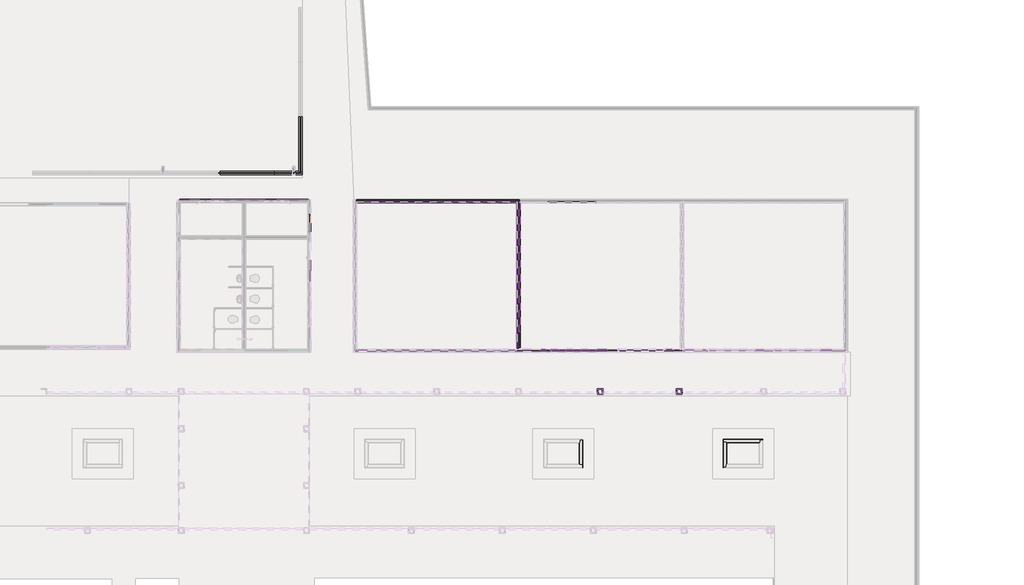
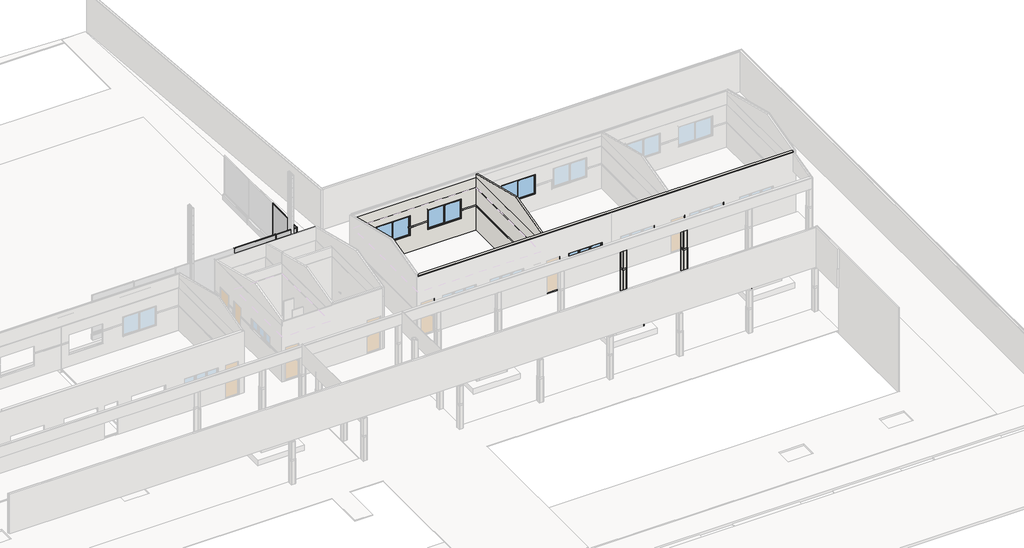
# One storey, part 17 of 28: 53 walls, 4 windows, 3 plates, 2 doors.
"""IFC4 building model written with IfcOpenShell, lengths in millimetres."""

from ifc_helpers import new_model, si_unit, frame, origin, place, context, project, spatial, polyline, outline, extrude, faceted_brep, transform, mapped, element, save
from components import door_29cd268e, pm71_l82cm_d3679378, plate_c8864c2c, plate_80ebe286, window_2x1_20x1x10_9e9748dd, window_2x60x220_bcaba8dd

model = new_model("IFC4")

# Units and contexts
model_context = context("Model", 3, world=origin())
ifc_project = project(units=[si_unit("LENGTHUNIT", "METRE", prefix="MILLI")], contexts=[model_context])

# Site, building, storey
site = spatial("IfcSite", under=ifc_project)
building = spatial("IfcBuilding", under=site)
storey = spatial("IfcBuildingStorey", under=building, Name="Térreo", Elevation=0.0)

# Doors
placement = place(None, origin())
door_shape = door_29cd268e(model_context)
element("IfcDoor", 1, ObjectType="FDE_RP02_Reforço : FDE_RP02_Reforço", at=placement, inside=storey, context=model_context, shape_type="MappedRepresentation", body=[
    mapped(door_shape, transform((-27945.0, 27320.0, 1265.0), x_axis=(0.0, -1.0, 0.0), y_axis=(1.0, 0.0, 0.0), z_axis=(0.0, 0.0, 1.0))),
])
pm71_l82cm_shape = pm71_l82cm_d3679378(model_context)
element("IfcDoor", 2, ObjectType="FDE_PM70_PM71_PM72_PortadeMadeiraSarrafeada_BatenteMetálico : PM71_L82cm", at=placement, inside=storey, context=model_context, shape_type="MappedRepresentation", body=[
    mapped(pm71_l82cm_shape, transform((-27975.0, 26965.0, 215.0), x_axis=(0.0, -1.0, 0.0), y_axis=(1.0, 0.0, 0.0), z_axis=(0.0, 0.0, 1.0))),
])

# Plates
plate_shape = plate_c8864c2c(model_context)
element("IfcPlate", 3, ObjectType="FDE_FQ01_FechamentoParaQuadradeEsportes : FQ01_LateraisSapata", at=placement, inside=storey, context=model_context, shape_type="MappedRepresentation", body=[
    mapped(plate_shape, transform((-30914.9999997, 29253.7010511, -350.0), x_axis=(1.0, 0.0, 0.0), y_axis=(0.0, 1.0, 0.0), z_axis=(0.0, 0.0, 1.0))),
])
element("IfcPlate", 4, ObjectType="FDE_FQ01_FechamentoParaQuadradeEsportes : FQ01_LateraisSapata", at=placement, inside=storey, context=model_context, shape_type="MappedRepresentation", body=[
    mapped(plate_shape, transform((-28385.0, 30503.7010512, -350.0), x_axis=(0.0, 1.0, 0.0), y_axis=(-1.0, 0.0, 0.0), z_axis=(0.0, 0.0, 1.0))),
])
plate_2_shape = plate_80ebe286(model_context)
element("IfcPlate", 5, ObjectType="FDE_FQ01_FechamentoParaQuadradeEsportes : FQ01_LateraisSapata", at=placement, inside=storey, context=model_context, shape_type="MappedRepresentation", body=[
    mapped(plate_2_shape, transform((-29024.9999998, 29253.7010511, -350.0), x_axis=(1.0, 0.0, 0.0), y_axis=(0.0, 1.0, 0.0), z_axis=(0.0, 0.0, 1.0))),
])

# Walls
element("IfcWall", 6, ObjectType="FDE_S712_AlvenariadeTijoloCerâmico/Baiano_Alvenaria_9cm - Existente", at=placement, inside=storey, context=model_context, shape_type="Brep", body=[
    faceted_brep([(-25830.0, 27930.0, 0.0), (-18425.0, 27930.0, 0.0), (-18425.0, 27930.0, 3500.0), (-25830.0, 27930.0, 3500.0), (-21365.0, 27930.0, 1235.0), (-21365.0, 27930.0, 1824.9435125), (-21365.0, 27930.0, 2505.0), (-19295.0, 27930.0, 2505.0), (-19295.0, 27930.0, 1824.9435125), (-19295.0, 27930.0, 1235.0), (-24465.0, 27930.0, 1235.0), (-24465.0, 27930.0, 1824.9435125), (-24465.0, 27930.0, 2505.0), (-22395.0, 27930.0, 2505.0), (-22395.0, 27930.0, 1824.9435125), (-22395.0, 27930.0, 1235.0), (-25830.0, 28020.0, 0.0), (-25830.0, 28020.0, 3500.0), (-18425.0, 28020.0, 3500.0), (-18425.0, 28020.0, 0.0), (-21365.0, 28020.0, 1235.0), (-19295.0, 28020.0, 1235.0), (-19295.0, 28020.0, 2505.0), (-21365.0, 28020.0, 2505.0), (-24465.0, 28020.0, 1235.0), (-22395.0, 28020.0, 1235.0), (-22395.0, 28020.0, 2505.0), (-24465.0, 28020.0, 2505.0)], [[[0, 1, 2, 3], [4, 5, 6, 7, 8, 9], [10, 11, 12, 13, 14, 15]], [[16, 17, 18, 19], [20, 21, 22, 23], [24, 25, 26, 27]], [[1, 0, 16, 19]], [[3, 2, 18, 17]], [[0, 3, 17, 16]], [[2, 1, 19, 18]], [[6, 5, 4, 20, 23]], [[7, 6, 23, 22]], [[9, 8, 7, 22, 21]], [[4, 9, 21, 20]], [[12, 11, 10, 24, 27]], [[13, 12, 27, 26]], [[15, 14, 13, 26, 25]], [[10, 15, 25, 24]]]),
])
element("IfcWall", 7, ObjectType="FDE_S712_AlvenariadeTijoloCerâmico/Baiano_Alvenaria_9cm - Existente", at=placement, inside=storey, context=model_context, shape_type="Brep", body=[
    faceted_brep([(-18425.0, 28020.0, 0.0), (-18425.0, 27930.0, 0.0), (-18425.0, 21150.0, 0.0), (-18425.0, 21060.0, 0.0), (-18425.0, 21060.0, 3500.0), (-18425.0, 21150.0, 3500.0), (-18425.0, 27930.0, 3500.0), (-18425.0, 28020.0, 3500.0), (-18335.0, 28020.0, 0.0), (-18335.0, 28020.0, 3500.0), (-18335.0, 27930.0, 3500.0), (-18335.0, 21150.0, 3500.0), (-18335.0, 21060.0, 3500.0), (-18335.0, 21060.0, 0.0), (-18335.0, 21150.0, 0.0), (-18335.0, 27930.0, 0.0)], [[[0, 1, 2, 3, 4, 5, 6, 7]], [[8, 9, 10, 11, 12, 13, 14, 15]], [[3, 2, 1, 0, 8, 15, 14, 13]], [[7, 6, 5, 4, 12, 11, 10, 9]], [[4, 3, 13, 12]], [[0, 7, 9, 8]]]),
])
element("IfcWall", 8, ObjectType="FDE_S712_AlvenariadeTijoloCerâmico/Baiano_Alvenaria_9cm - Existente", at=placement, inside=storey, context=model_context, shape_type="Brep", body=[
    faceted_brep([(-10920.0, 21150.0, 0.0), (-18335.0, 21150.0, 0.0), (-18335.0, 21150.0, 3500.0), (-10920.0, 21150.0, 3500.0), (-18196.0, 21150.0, 2332.0), (-18196.0, 21150.0, 220.0), (-17362.0, 21150.0, 220.0), (-17362.0, 21150.0, 2332.0), (-11719.0, 21150.0, 1665.0), (-11719.0, 21150.0, 2335.0), (-13789.0, 21150.0, 2335.0), (-13789.0, 21150.0, 1665.0), (-14827.0, 21150.0, 1665.0), (-14827.0, 21150.0, 2335.0), (-16897.0, 21150.0, 2335.0), (-16897.0, 21150.0, 1665.0), (-18335.0, 21060.0, 0.0), (-10920.0, 21060.0, 0.0), (-10920.0, 21060.0, 3500.0), (-18335.0, 21060.0, 3500.0), (-18196.0, 21060.0, 220.0), (-18196.0, 21060.0, 1731.0528047), (-18196.0, 21060.0, 1824.9435125), (-18196.0, 21060.0, 2332.0), (-17362.0, 21060.0, 2332.0), (-17362.0, 21060.0, 1824.9435125), (-17362.0, 21060.0, 1731.0528047), (-17362.0, 21060.0, 220.0), (-11719.0, 21060.0, 2335.0), (-11719.0, 21060.0, 1824.9435125), (-11719.0, 21060.0, 1731.0528047), (-11719.0, 21060.0, 1665.0), (-13789.0, 21060.0, 1665.0), (-13789.0, 21060.0, 1731.0528047), (-13789.0, 21060.0, 1824.9435125), (-13789.0, 21060.0, 2335.0), (-14827.0, 21060.0, 2335.0), (-14827.0, 21060.0, 1824.9435125), (-14827.0, 21060.0, 1731.0528047), (-14827.0, 21060.0, 1665.0), (-16897.0, 21060.0, 1665.0), (-16897.0, 21060.0, 1731.0528047), (-16897.0, 21060.0, 1824.9435125), (-16897.0, 21060.0, 2335.0)], [[[0, 1, 2, 3], [4, 5, 6, 7], [8, 9, 10, 11], [12, 13, 14, 15]], [[16, 17, 18, 19], [20, 21, 22, 23, 24, 25, 26, 27], [28, 29, 30, 31, 32, 33, 34, 35], [36, 37, 38, 39, 40, 41, 42, 43]], [[1, 0, 17, 16]], [[3, 2, 19, 18]], [[2, 1, 16, 19]], [[20, 5, 4, 23, 22, 21]], [[23, 4, 7, 24]], [[24, 7, 6, 27, 26, 25]], [[5, 20, 27, 6]], [[8, 31, 30, 29, 28, 9]], [[9, 28, 35, 10]], [[10, 35, 34, 33, 32, 11]], [[31, 8, 11, 32]], [[12, 39, 38, 37, 36, 13]], [[13, 36, 43, 14]], [[14, 43, 42, 41, 40, 15]], [[39, 12, 15, 40]], [[3, 18, 17, 0]]]),
])
element("IfcWall", 9, ObjectType="FDE_S712_AlvenariadeTijoloCerâmico/Baiano_Alvenaria_9cm - Existente", at=placement, inside=storey, context=model_context, shape_type="Brep", body=[
    faceted_brep([(-3420.0, 21150.0, 4093.692274), (-3420.0, 21150.0, 1730.1789081), (-3420.0, 21150.0, 1600.0), (-9920.0, 21150.0, 1600.0), (-9920.0, 21150.0, 1730.1789081), (-9920.0, 21150.0, 2312.0), (-10754.0, 21150.0, 2312.0), (-10754.0, 21150.0, 1730.1789081), (-10754.0, 21150.0, 1600.0), (-17362.0, 21150.0, 1600.0), (-17362.0, 21150.0, 1730.1789081), (-17362.0, 21150.0, 2332.0), (-18196.0, 21150.0, 2332.0), (-18196.0, 21150.0, 1730.1789081), (-18196.0, 21150.0, 1600.0), (-24896.0, 21150.0, 1600.0), (-24896.0, 21150.0, 2312.0), (-25730.0, 21150.0, 2312.0), (-25730.0, 21150.0, 1600.0), (-25830.0, 21150.0, 1600.0), (-25830.0, 21150.0, 4093.692274), (-22361.0, 21150.0, 1665.0), (-22361.0, 21150.0, 2335.0), (-24431.0, 21150.0, 2335.0), (-24431.0, 21150.0, 1665.0), (-19521.0, 21150.0, 1665.0), (-19521.0, 21150.0, 2335.0), (-21591.0, 21150.0, 2335.0), (-21591.0, 21150.0, 1665.0), (-14827.0, 21150.0, 1665.0), (-14827.0, 21150.0, 1730.1789081), (-14827.0, 21150.0, 2335.0), (-16897.0, 21150.0, 2335.0), (-16897.0, 21150.0, 1730.1789081), (-16897.0, 21150.0, 1665.0), (-11719.0, 21150.0, 1665.0), (-11719.0, 21150.0, 1730.1789081), (-11719.0, 21150.0, 2335.0), (-13789.0, 21150.0, 2335.0), (-13789.0, 21150.0, 1730.1789081), (-13789.0, 21150.0, 1665.0), (-7585.0, 21150.0, 1665.0), (-7585.0, 21150.0, 1730.1789081), (-7585.0, 21150.0, 2335.0), (-9655.0, 21150.0, 2335.0), (-9655.0, 21150.0, 1730.1789081), (-9655.0, 21150.0, 1665.0), (-4585.0, 21150.0, 1665.0), (-4585.0, 21150.0, 1730.1789081), (-4585.0, 21150.0, 2335.0), (-6655.0, 21150.0, 2335.0), (-6655.0, 21150.0, 1730.1789081), (-6655.0, 21150.0, 1665.0), (-3420.0, 21060.0, 1600.0), (-3420.0, 21060.0, 4071.192274), (-25830.0, 21060.0, 4071.192274), (-25830.0, 21060.0, 1600.0), (-25730.0, 21060.0, 1600.0), (-25730.0, 21060.0, 2312.0), (-24896.0, 21060.0, 2312.0), (-24896.0, 21060.0, 1600.0), (-18196.0, 21060.0, 1600.0), (-18196.0, 21060.0, 2332.0), (-17362.0, 21060.0, 2332.0), (-17362.0, 21060.0, 1600.0), (-10754.0, 21060.0, 1600.0), (-10754.0, 21060.0, 2312.0), (-9920.0, 21060.0, 2312.0), (-9920.0, 21060.0, 1600.0), (-22361.0, 21060.0, 2335.0), (-22361.0, 21060.0, 1665.0), (-24431.0, 21060.0, 1665.0), (-24431.0, 21060.0, 2335.0), (-19521.0, 21060.0, 2335.0), (-19521.0, 21060.0, 1665.0), (-21591.0, 21060.0, 1665.0), (-21591.0, 21060.0, 2335.0), (-14827.0, 21060.0, 2335.0), (-14827.0, 21060.0, 1665.0), (-16897.0, 21060.0, 1665.0), (-16897.0, 21060.0, 2335.0), (-11719.0, 21060.0, 2335.0), (-11719.0, 21060.0, 1665.0), (-13789.0, 21060.0, 1665.0), (-13789.0, 21060.0, 2335.0), (-7585.0, 21060.0, 2335.0), (-7585.0, 21060.0, 1665.0), (-9655.0, 21060.0, 1665.0), (-9655.0, 21060.0, 2335.0), (-4585.0, 21060.0, 2335.0), (-4585.0, 21060.0, 1665.0), (-6655.0, 21060.0, 1665.0), (-6655.0, 21060.0, 2335.0)], [[[0, 1, 2, 3, 4, 5, 6, 7, 8, 9, 10, 11, 12, 13, 14, 15, 16, 17, 18, 19, 20], [21, 22, 23, 24], [25, 26, 27, 28], [29, 30, 31, 32, 33, 34], [35, 36, 37, 38, 39, 40], [41, 42, 43, 44, 45, 46], [47, 48, 49, 50, 51, 52]], [[53, 54, 55, 56, 57, 58, 59, 60, 61, 62, 63, 64, 65, 66, 67, 68], [69, 70, 71, 72], [73, 74, 75, 76], [77, 78, 79, 80], [81, 82, 83, 84], [85, 86, 87, 88], [89, 90, 91, 92]], [[2, 53, 68, 3]], [[19, 18, 57, 56]], [[60, 15, 14, 61]], [[64, 9, 8, 65]], [[2, 1, 0, 54, 53]], [[17, 58, 57, 18]], [[58, 17, 16, 59]], [[59, 16, 15, 60]], [[12, 62, 61, 14, 13]], [[62, 12, 11, 63]], [[63, 11, 10, 9, 64]], [[6, 66, 65, 8, 7]], [[66, 6, 5, 67]], [[67, 5, 4, 3, 68]], [[0, 20, 55, 54]], [[69, 22, 21, 70]], [[22, 69, 72, 23]], [[23, 72, 71, 24]], [[25, 74, 73, 26]], [[26, 73, 76, 27]], [[27, 76, 75, 28]], [[77, 31, 30, 29, 78]], [[31, 77, 80, 32]], [[32, 80, 79, 34, 33]], [[81, 37, 36, 35, 82]], [[37, 81, 84, 38]], [[38, 84, 83, 40, 39]], [[85, 43, 42, 41, 86]], [[43, 85, 88, 44]], [[44, 88, 87, 46, 45]], [[89, 49, 48, 47, 90]], [[49, 89, 92, 50]], [[50, 92, 91, 52, 51]], [[90, 47, 52, 91]], [[74, 25, 28, 75]], [[70, 21, 24, 71]], [[82, 35, 40, 83]], [[78, 29, 34, 79]], [[86, 41, 46, 87]], [[19, 56, 55, 20]]]),
])
element("IfcWall", 10, ObjectType="FDE_S712_AlvenariadeTijoloCerâmico/Baiano_Alvenaria_9cm - Existente", at=placement, inside=storey, context=model_context, shape_type="SweptSolid", body=[
    extrude(outline(polyline([(27930.0, 0.0), (21180.0, 0.0), (21180.0, 4101.192274), (23811.6315073, 4759.1001508), (27930.0, 3729.5080277), (27930.0, 0.0)])), frame((-18425.0, 0.0, 0.0), z_axis=(1.0, 0.0, 0.0), x_axis=(0.0, 1.0, 0.0)), (0.0, 0.0, 1.0), 90.0),
])
element("IfcWall", 11, ObjectType="Revestimento Cerâmico 10x10cm", at=placement, inside=storey, context=model_context, shape_type="Brep", body=[
    faceted_brep([(-18305.0, 21180.0, 0.0), (-18305.0, 27900.0, 0.0), (-18305.0, 27930.0, 0.0), (-18305.0, 27930.0, 1730.1789081), (-18305.0, 27930.0, 1731.0528047), (-18305.0, 21180.0, 1731.0528047), (-18335.0, 21180.0, 0.0), (-18335.0, 21180.0, 1730.1789081), (-18335.0, 21180.0, 1731.0528047), (-18335.0, 27930.0, 1731.0528047), (-18335.0, 27930.0, 0.0)], [[[0, 1, 2, 3, 4, 5]], [[6, 7, 8, 9, 10]], [[2, 1, 0, 6, 10]], [[5, 4, 9, 8]], [[0, 5, 8, 7, 6]], [[4, 3, 2, 10, 9]]]),
])
element("IfcWall", 12, ObjectType="Revestimento Cerâmico 10x10cm", at=placement, inside=storey, context=model_context, shape_type="Brep", body=[
    faceted_brep([(-18460.0, 27930.0, 0.0), (-18460.0, 27900.0, 0.0), (-18460.0, 21180.0, 0.0), (-18460.0, 21150.0, 0.0), (-18460.0, 21150.0, 1730.538599), (-18460.0, 21180.0, 1730.538599), (-18460.0, 27900.0, 1730.538599), (-18460.0, 27930.0, 1730.538599), (-18430.0, 27930.0, 0.0), (-18430.0, 27930.0, 1730.538599), (-18430.0, 21150.0, 1730.538599), (-18430.0, 21150.0, 0.0)], [[[0, 1, 2, 3, 4, 5, 6, 7]], [[8, 9, 10, 11]], [[3, 2, 1, 0, 8, 11]], [[7, 6, 5, 4, 10, 9]], [[0, 7, 9, 8]], [[3, 11, 10, 4]]]),
])
element("IfcWall", 13, ObjectType="Revestimento Cerâmico 10x10cm", at=placement, inside=storey, context=model_context, shape_type="SweptSolid", body=[
    extrude(outline(polyline([(0.0, -25800.0), (0.0, -18460.0), (1730.538599, -18460.0), (1730.538599, -19295.0), (1235.0, -19295.0), (1235.0, -21365.0), (1730.538599, -21365.0), (1730.538599, -22395.0), (1235.0, -22395.0), (1235.0, -24465.0), (1730.538599, -24465.0), (1730.538599, -25800.0), (0.0, -25800.0)])), frame((0.0, 27900.0, 0.0), z_axis=(0.0, 1.0, 0.0), x_axis=(0.0, 0.0, 1.0)), (0.0, 0.0, 1.0), 30.0),
])
element("IfcWall", 14, ObjectType="Faixa - Revestimento Cerâmico Verde Folha 10x10cm", at=placement, inside=storey, context=model_context, shape_type="Brep", body=[
    faceted_brep([(-18460.0, 27930.0, 1731.0528047), (-18460.0, 27900.0, 1731.0528047), (-18460.0, 21180.0, 1731.0528047), (-18460.0, 21180.0, 1824.9435125), (-18460.0, 27900.0, 1824.9435125), (-18460.0, 27930.0, 1824.9435125), (-18430.0, 27930.0, 1731.0528047), (-18430.0, 27930.0, 1824.9435125), (-18430.0, 21180.0, 1824.9435125), (-18430.0, 21180.0, 1731.0528047)], [[[0, 1, 2, 3, 4, 5]], [[6, 7, 8, 9]], [[2, 1, 0, 6, 9]], [[5, 4, 3, 8, 7]], [[0, 5, 7, 6]], [[3, 2, 9, 8]]]),
])
element("IfcWall", 15, ObjectType="Pardes Internas_Pintura Acrílica Branco Neve 2", at=placement, inside=storey, context=model_context, shape_type="Brep", body=[
    faceted_brep([(-18456.0, 27930.0, 1824.9435125), (-18456.0, 27899.0, 1824.9435125), (-18456.0, 21181.0, 1824.9435125), (-18456.0, 21181.0, 2900.0), (-18456.0, 27899.0, 2900.0), (-18456.0, 27930.0, 2900.0), (-18425.0, 27930.0, 1824.9435125), (-18425.0, 27930.0, 2900.0), (-18425.0, 21181.0, 2900.0), (-18425.0, 21181.0, 1824.9435125)], [[[0, 1, 2, 3, 4, 5]], [[6, 7, 8, 9]], [[2, 1, 0, 6, 9]], [[5, 4, 3, 8, 7]], [[3, 2, 9, 8]], [[0, 5, 7, 6]]]),
])
element("IfcWall", 16, ObjectType="Faixa - Revestimento Cerâmico Verde Folha 10x10cm", at=placement, inside=storey, context=model_context, shape_type="SweptSolid", body=[
    extrude(outline(polyline([(-25800.0, 27900.0), (-25800.0, 27930.0), (-24565.0, 27930.0), (-24565.0, 27900.0), (-25800.0, 27900.0)])), frame((0.0, 0.0, 1731.0528047), z_axis=(0.0, 0.0, 1.0), x_axis=(1.0, 0.0, 0.0)), (0.0, 0.0, 1.0), 93.8907079),
    extrude(outline(polyline([(-18460.0, 27930.0), (-18460.0, 27900.0), (-19295.0, 27900.0), (-19295.0, 27930.0), (-18460.0, 27930.0)])), frame((0.0, 0.0, 1731.0528047), z_axis=(0.0, 0.0, 1.0), x_axis=(1.0, 0.0, 0.0)), (0.0, 0.0, 1.0), 93.8907079),
    extrude(outline(polyline([(-22495.0, 27900.0), (-22495.0, 27930.0), (-21365.0, 27930.0), (-21365.0, 27900.0), (-22495.0, 27900.0)])), frame((0.0, 0.0, 1731.0528047), z_axis=(0.0, 0.0, 1.0), x_axis=(1.0, 0.0, 0.0)), (0.0, 0.0, 1.0), 93.8907079),
])
element("IfcWall", 17, ObjectType="Faixa - Revestimento Cerâmico Verde Folha 10x10cm", at=placement, inside=storey, context=model_context, shape_type="SweptSolid", body=[
    extrude(outline(polyline([(-18305.0, 27900.0), (-18305.0, 27930.0), (-16955.0, 27930.0), (-16955.0, 27900.0), (-18305.0, 27900.0)])), frame((0.0, 0.0, 1731.0528047), z_axis=(0.0, 0.0, 1.0), x_axis=(1.0, 0.0, 0.0)), (0.0, 0.0, 1.0), 93.8907079),
])
element("IfcWall", 18, ObjectType="Pardes Internas_Pintura Acrílica Branco Neve 2", at=placement, inside=storey, context=model_context, shape_type="SweptSolid", body=[
    extrude(outline(polyline([(2900.0, -18456.0), (2900.0, -25799.0), (1824.9435125, -25799.0), (1824.9435125, -24465.0), (2505.0, -24465.0), (2505.0, -22395.0), (1824.9435125, -22395.0), (1824.9435125, -21365.0), (2505.0, -21365.0), (2505.0, -19295.0), (1824.9435125, -19295.0), (1824.9435125, -18456.0), (2900.0, -18456.0)])), frame((0.0, 27899.0, 0.0), z_axis=(0.0, 1.0, 0.0), x_axis=(0.0, 0.0, 1.0)), (0.0, 0.0, 1.0), 31.0),
])
element("IfcWall", 19, ObjectType="Revestimento Cerâmico 10x10cm", at=placement, inside=storey, context=model_context, shape_type="Brep", body=[
    faceted_brep([(-28020.0, 28050.0, 0.0), (-33930.0, 28050.0, 0.0), (-33930.0, 28050.0, 1731.0528047), (-33010.0, 28050.0, 1731.0528047), (-33010.0, 28050.0, 1665.0), (-31940.0, 28050.0, 1665.0), (-31940.0, 28050.0, 1731.0528047), (-30010.0, 28050.0, 1731.0528047), (-30010.0, 28050.0, 1665.0), (-28940.0, 28050.0, 1665.0), (-28940.0, 28050.0, 1731.0528047), (-28020.0, 28050.0, 1731.0528047), (-33930.0, 28020.0, 0.0), (-28020.0, 28020.0, 0.0), (-28020.0, 28020.0, 1731.0528047), (-28940.0, 28020.0, 1731.0528047), (-28940.0, 28020.0, 1665.0), (-30010.0, 28020.0, 1665.0), (-30010.0, 28020.0, 1731.0528047), (-31940.0, 28020.0, 1731.0528047), (-31940.0, 28020.0, 1665.0), (-33010.0, 28020.0, 1665.0), (-33010.0, 28020.0, 1731.0528047), (-33930.0, 28020.0, 1731.0528047), (-33930.0, 28041.0, 1731.0528047), (-33010.0, 28041.0, 1731.0528047), (-31940.0, 28041.0, 1731.0528047), (-30010.0, 28041.0, 1731.0528047), (-28020.0, 28041.0, 1731.0528047), (-28940.0, 28041.0, 1731.0528047)], [[[0, 1, 2, 3, 4, 5, 6, 7, 8, 9, 10, 11]], [[12, 13, 14, 15, 16, 17, 18, 19, 20, 21, 22, 23]], [[1, 0, 13, 12]], [[3, 2, 24, 23, 22, 25]], [[6, 26, 19, 18, 27, 7]], [[14, 28, 11, 10, 29, 15]], [[21, 4, 3, 25, 22]], [[5, 20, 19, 26, 6]], [[4, 21, 20, 5]], [[17, 8, 7, 27, 18]], [[9, 16, 15, 29, 10]], [[8, 17, 16, 9]], [[1, 12, 23, 24, 2]], [[13, 0, 11, 28, 14]]]),
])
element("IfcWall", 20, ObjectType="Faixa - Revestimento Cerâmico Verde Folha 10x10cm", at=placement, inside=storey, context=model_context, shape_type="SweptSolid", body=[
    extrude(outline(polyline([(-28020.0, 28050.0), (-28020.0, 28020.0), (-28940.0, 28020.0), (-28940.0, 28050.0), (-28020.0, 28050.0)])), frame((0.0, 0.0, 1731.0528047), z_axis=(0.0, 0.0, 1.0), x_axis=(1.0, 0.0, 0.0)), (0.0, 0.0, 1.0), 93.8907079),
])
element("IfcWall", 21, ObjectType="Pardes Externas_Pintura Acrílica Branco Neve", at=placement, inside=storey, context=model_context, shape_type="SweptSolid", body=[
    extrude(outline(polyline([(3693.3295728, -28020.0), (3693.3295728, -33930.0), (1731.0528047, -33930.0), (1731.0528047, -33010.0), (2335.0, -33010.0), (2335.0, -31940.0), (1731.0528047, -31940.0), (1731.0528047, -30010.0), (2335.0, -30010.0), (2335.0, -28940.0), (1731.0528047, -28940.0), (1731.0528047, -28020.0), (3693.3295728, -28020.0)])), frame((0.0, 28020.0, 0.0), z_axis=(0.0, 1.0, 0.0), x_axis=(0.0, 0.0, 1.0)), (0.0, 0.0, 1.0), 21.0),
])
element("IfcWall", 22, ObjectType="Pardes Externas_Pintura Acrílica Branco Neve", at=placement, inside=storey, context=model_context, shape_type="Brep", body=[
    faceted_brep([(-14746.0, 19330.0, 1794.0), (-14725.0, 19330.0, 1794.0), (-14525.0, 19330.0, 1794.0), (-14504.0, 19330.0, 1794.0), (-14504.0, 19330.0, 2900.0), (-14525.0, 19330.0, 2900.0), (-14725.0, 19330.0, 2900.0), (-14746.0, 19330.0, 2900.0), (-14746.0, 19351.0, 1794.0), (-14746.0, 19351.0, 2900.0), (-14504.0, 19351.0, 2900.0), (-14504.0, 19351.0, 1794.0)], [[[0, 1, 2, 3, 4, 5, 6, 7]], [[8, 9, 10, 11]], [[3, 2, 1, 0, 8, 11]], [[7, 6, 5, 4, 10, 9]], [[0, 7, 9, 8]], [[4, 3, 11, 10]]]),
])
element("IfcWall", 23, ObjectType="Revestimento Cerâmico 10x10cm", at=placement, inside=storey, context=model_context, shape_type="Brep", body=[
    faceted_brep([(-14755.0, 19330.0, 194.0), (-14725.0, 19330.0, 194.0), (-14525.0, 19330.0, 194.0), (-14495.0, 19330.0, 194.0), (-14495.0, 19330.0, 1694.0), (-14525.0, 19330.0, 1694.0), (-14725.0, 19330.0, 1694.0), (-14755.0, 19330.0, 1694.0), (-14755.0, 19360.0, 194.0), (-14755.0, 19360.0, 1694.0), (-14495.0, 19360.0, 1694.0), (-14495.0, 19360.0, 194.0)], [[[0, 1, 2, 3, 4, 5, 6, 7]], [[8, 9, 10, 11]], [[3, 2, 1, 0, 8, 11]], [[7, 6, 5, 4, 10, 9]], [[0, 7, 9, 8]], [[4, 3, 11, 10]]]),
])
element("IfcWall", 24, ObjectType="Revestimento Cerâmico 10x10cm", at=placement, inside=storey, context=model_context, shape_type="Brep", body=[
    faceted_brep([(-14725.0, 19100.0, 194.0), (-14725.0, 19130.0, 194.0), (-14725.0, 19330.0, 194.0), (-14725.0, 19330.0, 1694.0), (-14725.0, 19130.0, 1694.0), (-14725.0, 19100.0, 1694.0), (-14755.0, 19100.0, 194.0), (-14755.0, 19100.0, 1694.0), (-14755.0, 19330.0, 1694.0), (-14755.0, 19330.0, 194.0)], [[[0, 1, 2, 3, 4, 5]], [[6, 7, 8, 9]], [[2, 1, 0, 6, 9]], [[5, 4, 3, 8, 7]], [[3, 2, 9, 8]], [[0, 5, 7, 6]]]),
])
element("IfcWall", 25, ObjectType="Revestimento Cerâmico 10x10cm", at=placement, inside=storey, context=model_context, shape_type="Brep", body=[
    faceted_brep([(-14525.0, 19330.0, 194.0), (-14525.0, 19130.0, 194.0), (-14525.0, 19100.0, 194.0), (-14525.0, 19100.0, 1694.0), (-14525.0, 19130.0, 1694.0), (-14525.0, 19330.0, 1694.0), (-14495.0, 19330.0, 194.0), (-14495.0, 19330.0, 1694.0), (-14495.0, 19100.0, 1694.0), (-14495.0, 19100.0, 194.0)], [[[0, 1, 2, 3, 4, 5]], [[6, 7, 8, 9]], [[2, 1, 0, 6, 9]], [[5, 4, 3, 8, 7]], [[0, 5, 7, 6]], [[3, 2, 9, 8]]]),
])
element("IfcWall", 26, ObjectType="Revestimento Cerâmico 10x10cm", at=placement, inside=storey, context=model_context, shape_type="SweptSolid", body=[
    extrude(outline(polyline([(-14525.0, 19100.0), (-14725.0, 19100.0), (-14725.0, 19130.0), (-14525.0, 19130.0), (-14525.0, 19100.0)])), frame((0.0, 0.0, 194.0), z_axis=(0.0, 0.0, 1.0), x_axis=(1.0, 0.0, 0.0)), (0.0, 0.0, 1.0), 1500.0),
])
element("IfcWall", 27, ObjectType="Faixa - Revestimento Cerâmico Verde Folha 10x10cm", at=placement, inside=storey, context=model_context, shape_type="Brep", body=[
    faceted_brep([(-14755.0, 19330.0, 1694.0), (-14725.0, 19330.0, 1694.0), (-14525.0, 19330.0, 1694.0), (-14495.0, 19330.0, 1694.0), (-14495.0, 19330.0, 1794.0), (-14525.0, 19330.0, 1794.0), (-14725.0, 19330.0, 1794.0), (-14755.0, 19330.0, 1794.0), (-14755.0, 19360.0, 1694.0), (-14755.0, 19360.0, 1794.0), (-14495.0, 19360.0, 1794.0), (-14495.0, 19360.0, 1694.0)], [[[0, 1, 2, 3, 4, 5, 6, 7]], [[8, 9, 10, 11]], [[3, 2, 1, 0, 8, 11]], [[7, 6, 5, 4, 10, 9]], [[4, 3, 11, 10]], [[0, 7, 9, 8]]]),
])
element("IfcWall", 28, ObjectType="Faixa - Revestimento Cerâmico Verde Folha 10x10cm", at=placement, inside=storey, context=model_context, shape_type="Brep", body=[
    faceted_brep([(-14525.0, 19330.0, 1694.0), (-14525.0, 19130.0, 1694.0), (-14525.0, 19100.0, 1694.0), (-14525.0, 19100.0, 1794.0), (-14525.0, 19130.0, 1794.0), (-14525.0, 19330.0, 1794.0), (-14495.0, 19330.0, 1694.0), (-14495.0, 19330.0, 1794.0), (-14495.0, 19100.0, 1794.0), (-14495.0, 19100.0, 1694.0)], [[[0, 1, 2, 3, 4, 5]], [[6, 7, 8, 9]], [[2, 1, 0, 6, 9]], [[5, 4, 3, 8, 7]], [[0, 5, 7, 6]], [[3, 2, 9, 8]]]),
])
element("IfcWall", 29, ObjectType="Faixa - Revestimento Cerâmico Verde Folha 10x10cm", at=placement, inside=storey, context=model_context, shape_type="Brep", body=[
    faceted_brep([(-14755.0, 19100.0, 1694.0), (-14525.0, 19100.0, 1694.0), (-14525.0, 19100.0, 1794.0), (-14755.0, 19100.0, 1794.0), (-14755.0, 19130.0, 1694.0), (-14755.0, 19130.0, 1794.0), (-14725.0, 19130.0, 1794.0), (-14525.0, 19130.0, 1794.0), (-14525.0, 19130.0, 1694.0), (-14725.0, 19130.0, 1694.0), (-14525.0, 19109.0, 1794.0)], [[[0, 1, 2, 3]], [[4, 5, 6, 7, 8, 9]], [[1, 0, 4, 9, 8]], [[3, 2, 10, 7, 6, 5]], [[2, 1, 8, 7, 10]], [[0, 3, 5, 4]]]),
])
element("IfcWall", 30, ObjectType="Faixa - Revestimento Cerâmico Verde Folha 10x10cm", at=placement, inside=storey, context=model_context, shape_type="SweptSolid", body=[
    extrude(outline(polyline([(-14755.0, 19130.0), (-14755.0, 19330.0), (-14725.0, 19330.0), (-14725.0, 19130.0), (-14755.0, 19130.0)])), frame((0.0, 0.0, 1694.0), z_axis=(0.0, 0.0, 1.0), x_axis=(1.0, 0.0, 0.0)), (0.0, 0.0, 1.0), 100.0),
])
element("IfcWall", 31, ObjectType="Pardes Externas_Pintura Acrílica Branco Neve", at=placement, inside=storey, context=model_context, shape_type="SweptSolid", body=[
    extrude(outline(polyline([(-14525.0, 19109.0), (-14725.0, 19109.0), (-14725.0, 19130.0), (-14525.0, 19130.0), (-14525.0, 19109.0)])), frame((0.0, 0.0, 1794.0), z_axis=(0.0, 0.0, 1.0), x_axis=(1.0, 0.0, 0.0)), (0.0, 0.0, 1.0), 1106.0),
])
element("IfcWall", 32, ObjectType="Pardes Externas_Pintura Acrílica Branco Neve", at=placement, inside=storey, context=model_context, shape_type="Brep", body=[
    faceted_brep([(-14525.0, 19330.0, 1794.0), (-14525.0, 19130.0, 1794.0), (-14525.0, 19109.0, 1794.0), (-14525.0, 19109.0, 2900.0), (-14525.0, 19130.0, 2900.0), (-14525.0, 19330.0, 2900.0), (-14504.0, 19330.0, 1794.0), (-14504.0, 19330.0, 2900.0), (-14504.0, 19109.0, 2900.0), (-14504.0, 19109.0, 1794.0)], [[[0, 1, 2, 3, 4, 5]], [[6, 7, 8, 9]], [[2, 1, 0, 6, 9]], [[5, 4, 3, 8, 7]], [[3, 2, 9, 8]], [[0, 5, 7, 6]]]),
])
element("IfcWall", 33, ObjectType="Pardes Externas_Pintura Acrílica Branco Neve", at=placement, inside=storey, context=model_context, shape_type="Brep", body=[
    faceted_brep([(-14746.0, 19330.0, 1794.0), (-14746.0, 19109.0, 1794.0), (-14746.0, 19109.0, 2900.0), (-14746.0, 19330.0, 2900.0), (-14725.0, 19330.0, 1794.0), (-14725.0, 19330.0, 2900.0), (-14725.0, 19130.0, 2900.0), (-14725.0, 19109.0, 2900.0), (-14725.0, 19109.0, 1794.0), (-14725.0, 19130.0, 1794.0)], [[[0, 1, 2, 3]], [[4, 5, 6, 7, 8, 9]], [[1, 0, 4, 9, 8]], [[3, 2, 7, 6, 5]], [[2, 1, 8, 7]], [[0, 3, 5, 4]]]),
])
element("IfcWall", 34, ObjectType="Pardes Externas_Pintura Acrílica Branco Neve", at=placement, inside=storey, context=model_context, shape_type="Brep", body=[
    faceted_brep([(-11121.0, 19330.0, 1794.0), (-11100.0, 19330.0, 1794.0), (-10900.0, 19330.0, 1794.0), (-10879.0, 19330.0, 1794.0), (-10879.0, 19330.0, 2900.0), (-10900.0, 19330.0, 2900.0), (-11100.0, 19330.0, 2900.0), (-11121.0, 19330.0, 2900.0), (-11121.0, 19351.0, 1794.0), (-11121.0, 19351.0, 2900.0), (-10879.0, 19351.0, 2900.0), (-10879.0, 19351.0, 1794.0)], [[[0, 1, 2, 3, 4, 5, 6, 7]], [[8, 9, 10, 11]], [[3, 2, 1, 0, 8, 11]], [[7, 6, 5, 4, 10, 9]], [[0, 7, 9, 8]], [[4, 3, 11, 10]]]),
])
element("IfcWall", 35, ObjectType="Revestimento Cerâmico 10x10cm", at=placement, inside=storey, context=model_context, shape_type="Brep", body=[
    faceted_brep([(-11130.0, 19330.0, 194.0), (-11100.0, 19330.0, 194.0), (-10900.0, 19330.0, 194.0), (-10870.0, 19330.0, 194.0), (-10870.0, 19330.0, 1694.0), (-10900.0, 19330.0, 1694.0), (-11100.0, 19330.0, 1694.0), (-11130.0, 19330.0, 1694.0), (-11130.0, 19360.0, 194.0), (-11130.0, 19360.0, 1694.0), (-10870.0, 19360.0, 1694.0), (-10870.0, 19360.0, 194.0)], [[[0, 1, 2, 3, 4, 5, 6, 7]], [[8, 9, 10, 11]], [[3, 2, 1, 0, 8, 11]], [[7, 6, 5, 4, 10, 9]], [[0, 7, 9, 8]], [[4, 3, 11, 10]]]),
])
element("IfcWall", 36, ObjectType="Revestimento Cerâmico 10x10cm", at=placement, inside=storey, context=model_context, shape_type="Brep", body=[
    faceted_brep([(-11100.0, 19100.0, 194.0), (-11100.0, 19130.0, 194.0), (-11100.0, 19330.0, 194.0), (-11100.0, 19330.0, 1694.0), (-11100.0, 19130.0, 1694.0), (-11100.0, 19100.0, 1694.0), (-11130.0, 19100.0, 194.0), (-11130.0, 19100.0, 1694.0), (-11130.0, 19330.0, 1694.0), (-11130.0, 19330.0, 194.0)], [[[0, 1, 2, 3, 4, 5]], [[6, 7, 8, 9]], [[2, 1, 0, 6, 9]], [[5, 4, 3, 8, 7]], [[3, 2, 9, 8]], [[0, 5, 7, 6]]]),
])
element("IfcWall", 37, ObjectType="Revestimento Cerâmico 10x10cm", at=placement, inside=storey, context=model_context, shape_type="Brep", body=[
    faceted_brep([(-10900.0, 19330.0, 194.0), (-10900.0, 19130.0, 194.0), (-10900.0, 19100.0, 194.0), (-10900.0, 19100.0, 1694.0), (-10900.0, 19130.0, 1694.0), (-10900.0, 19330.0, 1694.0), (-10870.0, 19330.0, 194.0), (-10870.0, 19330.0, 1694.0), (-10870.0, 19100.0, 1694.0), (-10870.0, 19100.0, 194.0)], [[[0, 1, 2, 3, 4, 5]], [[6, 7, 8, 9]], [[2, 1, 0, 6, 9]], [[5, 4, 3, 8, 7]], [[0, 5, 7, 6]], [[3, 2, 9, 8]]]),
])
element("IfcWall", 38, ObjectType="Revestimento Cerâmico 10x10cm", at=placement, inside=storey, context=model_context, shape_type="SweptSolid", body=[
    extrude(outline(polyline([(-10900.0, 19100.0), (-11100.0, 19100.0), (-11100.0, 19130.0), (-10900.0, 19130.0), (-10900.0, 19100.0)])), frame((0.0, 0.0, 194.0), z_axis=(0.0, 0.0, 1.0), x_axis=(1.0, 0.0, 0.0)), (0.0, 0.0, 1.0), 1500.0),
])
element("IfcWall", 39, ObjectType="Faixa - Revestimento Cerâmico Verde Folha 10x10cm", at=placement, inside=storey, context=model_context, shape_type="Brep", body=[
    faceted_brep([(-11130.0, 19330.0, 1694.0), (-11100.0, 19330.0, 1694.0), (-10900.0, 19330.0, 1694.0), (-10870.0, 19330.0, 1694.0), (-10870.0, 19330.0, 1794.0), (-10900.0, 19330.0, 1794.0), (-11100.0, 19330.0, 1794.0), (-11130.0, 19330.0, 1794.0), (-11130.0, 19360.0, 1694.0), (-11130.0, 19360.0, 1794.0), (-10870.0, 19360.0, 1794.0), (-10870.0, 19360.0, 1694.0)], [[[0, 1, 2, 3, 4, 5, 6, 7]], [[8, 9, 10, 11]], [[3, 2, 1, 0, 8, 11]], [[7, 6, 5, 4, 10, 9]], [[4, 3, 11, 10]], [[0, 7, 9, 8]]]),
])
element("IfcWall", 40, ObjectType="Faixa - Revestimento Cerâmico Verde Folha 10x10cm", at=placement, inside=storey, context=model_context, shape_type="Brep", body=[
    faceted_brep([(-10900.0, 19330.0, 1694.0), (-10900.0, 19130.0, 1694.0), (-10900.0, 19100.0, 1694.0), (-10900.0, 19100.0, 1794.0), (-10900.0, 19130.0, 1794.0), (-10900.0, 19330.0, 1794.0), (-10870.0, 19330.0, 1694.0), (-10870.0, 19330.0, 1794.0), (-10870.0, 19100.0, 1794.0), (-10870.0, 19100.0, 1694.0)], [[[0, 1, 2, 3, 4, 5]], [[6, 7, 8, 9]], [[2, 1, 0, 6, 9]], [[5, 4, 3, 8, 7]], [[0, 5, 7, 6]], [[3, 2, 9, 8]]]),
])
element("IfcWall", 41, ObjectType="Faixa - Revestimento Cerâmico Verde Folha 10x10cm", at=placement, inside=storey, context=model_context, shape_type="Brep", body=[
    faceted_brep([(-11130.0, 19100.0, 1694.0), (-10900.0, 19100.0, 1694.0), (-10900.0, 19100.0, 1794.0), (-11130.0, 19100.0, 1794.0), (-11130.0, 19130.0, 1694.0), (-11130.0, 19130.0, 1794.0), (-11100.0, 19130.0, 1794.0), (-10900.0, 19130.0, 1794.0), (-10900.0, 19130.0, 1694.0), (-11100.0, 19130.0, 1694.0), (-10900.0, 19109.0, 1794.0)], [[[0, 1, 2, 3]], [[4, 5, 6, 7, 8, 9]], [[1, 0, 4, 9, 8]], [[3, 2, 10, 7, 6, 5]], [[2, 1, 8, 7, 10]], [[0, 3, 5, 4]]]),
])
element("IfcWall", 42, ObjectType="Faixa - Revestimento Cerâmico Verde Folha 10x10cm", at=placement, inside=storey, context=model_context, shape_type="SweptSolid", body=[
    extrude(outline(polyline([(-11130.0, 19130.0), (-11130.0, 19330.0), (-11100.0, 19330.0), (-11100.0, 19130.0), (-11130.0, 19130.0)])), frame((0.0, 0.0, 1694.0), z_axis=(0.0, 0.0, 1.0), x_axis=(1.0, 0.0, 0.0)), (0.0, 0.0, 1.0), 100.0),
])
element("IfcWall", 43, ObjectType="Pardes Externas_Pintura Acrílica Branco Neve", at=placement, inside=storey, context=model_context, shape_type="SweptSolid", body=[
    extrude(outline(polyline([(-10900.0, 19109.0), (-11100.0, 19109.0), (-11100.0, 19130.0), (-10900.0, 19130.0), (-10900.0, 19109.0)])), frame((0.0, 0.0, 1794.0), z_axis=(0.0, 0.0, 1.0), x_axis=(1.0, 0.0, 0.0)), (0.0, 0.0, 1.0), 1106.0),
])
element("IfcWall", 44, ObjectType="Pardes Externas_Pintura Acrílica Branco Neve", at=placement, inside=storey, context=model_context, shape_type="Brep", body=[
    faceted_brep([(-10900.0, 19330.0, 1794.0), (-10900.0, 19130.0, 1794.0), (-10900.0, 19109.0, 1794.0), (-10900.0, 19109.0, 2900.0), (-10900.0, 19130.0, 2900.0), (-10900.0, 19330.0, 2900.0), (-10879.0, 19330.0, 1794.0), (-10879.0, 19330.0, 2900.0), (-10879.0, 19109.0, 2900.0), (-10879.0, 19109.0, 1794.0)], [[[0, 1, 2, 3, 4, 5]], [[6, 7, 8, 9]], [[2, 1, 0, 6, 9]], [[5, 4, 3, 8, 7]], [[3, 2, 9, 8]], [[0, 5, 7, 6]]]),
])
element("IfcWall", 45, ObjectType="Pardes Externas_Pintura Acrílica Branco Neve", at=placement, inside=storey, context=model_context, shape_type="Brep", body=[
    faceted_brep([(-11121.0, 19330.0, 1794.0), (-11121.0, 19109.0, 1794.0), (-11121.0, 19109.0, 2900.0), (-11121.0, 19330.0, 2900.0), (-11100.0, 19330.0, 1794.0), (-11100.0, 19330.0, 2900.0), (-11100.0, 19130.0, 2900.0), (-11100.0, 19109.0, 2900.0), (-11100.0, 19109.0, 1794.0), (-11100.0, 19130.0, 1794.0)], [[[0, 1, 2, 3]], [[4, 5, 6, 7, 8, 9]], [[1, 0, 4, 9, 8]], [[3, 2, 7, 6, 5]], [[2, 1, 8, 7]], [[0, 3, 5, 4]]]),
])
element("IfcWall", 46, ObjectType="FDE_S713_AlvenariadeTijoloLaminadoaVista_Alvenaria_1/2TijoloAlternado_11,5cm", at=placement, inside=storey, context=model_context, shape_type="Brep", body=[
    faceted_brep([(-15442.3203436, 15867.1451949, 100.0), (-15442.3203436, 17010.1451949, 100.0), (-15442.3203436, 17010.1451949, 800.0), (-15442.3203436, 15867.1451949, 800.0), (-15557.3203436, 15867.1451949, 100.0), (-15557.3203436, 15867.1451949, 800.0), (-15557.3203436, 16895.1451949, 800.0), (-15557.3203436, 17010.1451949, 800.0), (-15557.3203436, 17010.1451949, 179.0468845), (-15557.3203436, 17010.1451949, 100.0)], [[[0, 1, 2, 3]], [[4, 5, 6, 7, 8, 9]], [[1, 0, 4, 9]], [[3, 2, 7, 6, 5]], [[2, 1, 9, 8, 7]], [[0, 3, 5, 4]]]),
])
element("IfcWall", 47, ObjectType="Pardes Externas_Pintura Acrílica Branco Neve", at=placement, inside=storey, context=model_context, shape_type="Brep", body=[
    faceted_brep([(-15442.3203436, 17010.1451949, 100.0), (-15442.3203436, 15752.1451949, 100.0), (-15442.3203436, 15731.1451949, 100.0), (-15442.3203436, 15731.1451949, 800.0), (-15442.3203436, 15752.1451949, 800.0), (-15442.3203436, 17010.1451949, 800.0), (-15421.3203436, 17010.1451949, 100.0), (-15421.3203436, 17010.1451949, 800.0), (-15421.3203436, 15731.1451949, 800.0), (-15421.3203436, 15731.1451949, 100.0)], [[[0, 1, 2, 3, 4, 5]], [[6, 7, 8, 9]], [[2, 1, 0, 6, 9]], [[5, 4, 3, 8, 7]], [[0, 5, 7, 6]], [[3, 2, 9, 8]]]),
])
element("IfcWall", 48, ObjectType="Pardes Externas_Pintura Acrílica Branco Neve", at=placement, inside=storey, context=model_context, shape_type="Brep", body=[
    faceted_brep([(-15557.3203436, 15867.1451949, 0.0), (-15557.3203436, 16895.1451949, 0.0), (-15557.3203436, 16895.1451949, 800.0), (-15557.3203436, 15867.1451949, 800.0), (-15578.3203436, 15867.1451949, 0.0), (-15578.3203436, 15867.1451949, 800.0), (-15578.3203436, 15888.1451949, 800.0), (-15578.3203436, 16874.1451949, 800.0), (-15578.3203436, 16895.1451949, 800.0), (-15578.3203436, 16895.1451949, 0.0), (-15578.3203436, 16874.1451949, 0.0), (-15578.3203436, 15888.1451949, 0.0)], [[[0, 1, 2, 3]], [[4, 5, 6, 7, 8, 9, 10, 11]], [[1, 0, 4, 11, 10, 9]], [[3, 2, 8, 7, 6, 5]], [[2, 1, 9, 8]], [[0, 3, 5, 4]]]),
])
element("IfcWall", 49, ObjectType="FDE_S713_AlvenariadeTijoloLaminadoaVista_Alvenaria_1/2TijoloAlternado_11,5cm", at=placement, inside=storey, context=model_context, shape_type="Brep", body=[
    faceted_brep([(-8950.0948906, 16895.1451949, 100.0), (-8950.0948906, 15752.1451949, 100.0), (-8950.0948906, 15752.1451949, 800.0), (-8950.0948906, 16895.1451949, 800.0), (-8950.0948906, 16895.1451949, 179.0468845), (-8835.0948906, 16895.1451949, 100.0), (-8835.0948906, 16895.1451949, 800.0), (-8835.0948906, 15867.1451949, 800.0), (-8835.0948906, 15752.1451949, 800.0), (-8835.0948906, 15752.1451949, 100.0)], [[[0, 1, 2, 3, 4]], [[5, 6, 7, 8, 9]], [[1, 0, 5, 9]], [[3, 2, 8, 7, 6]], [[2, 1, 9, 8]], [[0, 4, 3, 6, 5]]]),
])
element("IfcWall", 50, ObjectType="FDE_S713_AlvenariadeTijoloLaminadoaVista_Alvenaria_1/2TijoloAlternado_11,5cm", at=placement, inside=storey, context=model_context, shape_type="Brep", body=[
    faceted_brep([(-7307.0948906, 17010.1451949, 179.0468845), (-8950.0948906, 17010.1451949, 179.0468845), (-8950.0948906, 17010.1451949, 800.0), (-7307.0948906, 17010.1451949, 800.0), (-7307.0948906, 16895.1451949, 179.0468845), (-7307.0948906, 16895.1451949, 800.0), (-8835.0948906, 16895.1451949, 800.0), (-8950.0948906, 16895.1451949, 800.0), (-8950.0948906, 16895.1451949, 179.0468845)], [[[0, 1, 2, 3]], [[4, 5, 6, 7, 8]], [[1, 0, 4, 8]], [[3, 2, 7, 6, 5]], [[2, 1, 8, 7]], [[0, 3, 5, 4]]]),
])
element("IfcWall", 51, ObjectType="Pardes Externas_Pintura Acrílica Branco Neve", at=placement, inside=storey, context=model_context, shape_type="Brep", body=[
    faceted_brep([(-8971.0948906, 17010.1451949, 100.0), (-8950.0948906, 17010.1451949, 100.0), (-7192.0948906, 17010.1451949, 100.0), (-7171.0948906, 17010.1451949, 100.0), (-7171.0948906, 17010.1451949, 800.0), (-7192.0948906, 17010.1451949, 800.0), (-8950.0948906, 17010.1451949, 800.0), (-8971.0948906, 17010.1451949, 800.0), (-8971.0948906, 17031.1451949, 100.0), (-8971.0948906, 17031.1451949, 800.0), (-7171.0948906, 17031.1451949, 800.0), (-7171.0948906, 17031.1451949, 100.0)], [[[0, 1, 2, 3, 4, 5, 6, 7]], [[8, 9, 10, 11]], [[3, 2, 1, 0, 8, 11]], [[7, 6, 5, 4, 10, 9]], [[0, 7, 9, 8]], [[4, 3, 11, 10]]]),
])
element("IfcWall", 52, ObjectType="Pardes Externas_Pintura Acrílica Branco Neve", at=placement, inside=storey, context=model_context, shape_type="Brep", body=[
    faceted_brep([(-8950.0948906, 15731.1451949, 100.0), (-8950.0948906, 15752.1451949, 100.0), (-8950.0948906, 17010.1451949, 100.0), (-8950.0948906, 17010.1451949, 800.0), (-8950.0948906, 15752.1451949, 800.0), (-8950.0948906, 15731.1451949, 800.0), (-8971.0948906, 15731.1451949, 100.0), (-8971.0948906, 15731.1451949, 800.0), (-8971.0948906, 17010.1451949, 800.0), (-8971.0948906, 17010.1451949, 100.0)], [[[0, 1, 2, 3, 4, 5]], [[6, 7, 8, 9]], [[2, 1, 0, 6, 9]], [[5, 4, 3, 8, 7]], [[3, 2, 9, 8]], [[0, 5, 7, 6]]]),
])
element("IfcWall", 53, ObjectType="Pardes Externas_Pintura Acrílica Branco Neve", at=placement, inside=storey, context=model_context, shape_type="Brep", body=[
    faceted_brep([(-7328.0948906, 16895.1451949, 0.0), (-8835.0948906, 16895.1451949, 0.0), (-8835.0948906, 16895.1451949, 800.0), (-7328.0948906, 16895.1451949, 800.0), (-7328.0948906, 16874.1451949, 0.0), (-7328.0948906, 16874.1451949, 800.0), (-8814.0948906, 16874.1451949, 800.0), (-8835.0948906, 16874.1451949, 800.0), (-8835.0948906, 16874.1451949, 0.0), (-8814.0948906, 16874.1451949, 0.0)], [[[0, 1, 2, 3]], [[4, 5, 6, 7, 8, 9]], [[1, 0, 4, 9, 8]], [[3, 2, 7, 6, 5]], [[0, 3, 5, 4]], [[2, 1, 8, 7]]]),
])
element("IfcWall", 54, ObjectType="Pardes Externas_Pintura Acrílica Branco Neve", at=placement, inside=storey, context=model_context, shape_type="Brep", body=[
    faceted_brep([(-8835.0948906, 16874.1451949, 0.0), (-8835.0948906, 15867.1451949, 0.0), (-8835.0948906, 15867.1451949, 800.0), (-8835.0948906, 16874.1451949, 800.0), (-8814.0948906, 16874.1451949, 0.0), (-8814.0948906, 16874.1451949, 800.0), (-8814.0948906, 15888.1451949, 800.0), (-8814.0948906, 15867.1451949, 800.0), (-8814.0948906, 15867.1451949, 0.0), (-8814.0948906, 15888.1451949, 0.0)], [[[0, 1, 2, 3]], [[4, 5, 6, 7, 8, 9]], [[1, 0, 4, 9, 8]], [[3, 2, 7, 6, 5]], [[0, 3, 5, 4]], [[2, 1, 8, 7]]]),
])
element("IfcWall", 55, ObjectType="Faixa - Revestimento Cerâmico Verde Folha 10x10cm", at=placement, inside=storey, context=model_context, shape_type="SweptSolid", body=[
    extrude(outline(polyline([(-27900.0, 27930.0), (-27900.0, 27382.0), (-27930.0, 27382.0), (-27930.0, 27930.0), (-27900.0, 27930.0)])), frame((0.0, 0.0, 1731.0528047), z_axis=(0.0, 0.0, 1.0), x_axis=(1.0, 0.0, 0.0)), (0.0, 0.0, 1.0), 93.8907079),
    extrude(outline(polyline([(-27930.0, 26548.0), (-27900.0, 26548.0), (-27900.0, 26096.0), (-27930.0, 26096.0), (-27930.0, 26548.0)])), frame((0.0, 0.0, 1731.0528047), z_axis=(0.0, 0.0, 1.0), x_axis=(1.0, 0.0, 0.0)), (0.0, 0.0, 1.0), 93.8907079),
    extrude(outline(polyline([(-27930.0, 25262.0), (-27900.0, 25262.0), (-27900.0, 24285.0), (-27930.0, 24285.0), (-27930.0, 25262.0)])), frame((0.0, 0.0, 1731.0528047), z_axis=(0.0, 0.0, 1.0), x_axis=(1.0, 0.0, 0.0)), (0.0, 0.0, 1.0), 93.8907079),
])
element("IfcWall", 56, ObjectType="Faixa - Revestimento Cerâmico Verde Folha 10x10cm", at=placement, inside=storey, context=model_context, shape_type="SweptSolid", body=[
    extrude(outline(polyline([(-31940.0, 28020.0), (-31940.0, 28050.0), (-30010.0, 28050.0), (-30010.0, 28020.0), (-31940.0, 28020.0)])), frame((0.0, 0.0, 1731.0528047), z_axis=(0.0, 0.0, 1.0), x_axis=(1.0, 0.0, 0.0)), (0.0, 0.0, 1.0), 93.8907079),
    extrude(outline(polyline([(-33930.0, 28050.0), (-33010.0, 28050.0), (-33010.0, 28020.0), (-33930.0, 28020.0), (-33930.0, 28050.0)])), frame((0.0, 0.0, 1731.0528047), z_axis=(0.0, 0.0, 1.0), x_axis=(1.0, 0.0, 0.0)), (0.0, 0.0, 1.0), 93.8907079),
])
element("IfcWall", 57, ObjectType="Faixa - Revestimento Cerâmico Verde Folha 10x10cm", at=placement, inside=storey, context=model_context, shape_type="Brep", body=[
    faceted_brep([(-18335.0, 27930.0, 1731.0528047), (-18335.0, 21969.1072828, 1731.0528047), (-18335.0, 21969.1072828, 1824.9435125), (-18335.0, 27930.0, 1824.9435125), (-18305.0, 27930.0, 1731.0528047), (-18305.0, 27930.0, 1824.9435125), (-18305.0, 27900.0, 1824.9435125), (-18305.0, 21969.1072828, 1824.9435125), (-18305.0, 21969.1072828, 1731.0528047), (-18305.0, 27900.0, 1731.0528047)], [[[0, 1, 2, 3]], [[4, 5, 6, 7, 8, 9]], [[1, 0, 4, 9, 8]], [[2, 1, 8, 7]], [[3, 2, 7, 6, 5]], [[0, 3, 5, 4]]]),
])
element("IfcWall", 58, ObjectType="Pardes Internas_Pintura Acrílica Branco Neve 2", at=placement, inside=storey, context=model_context, shape_type="Brep", body=[
    faceted_brep([(-18335.0, 27930.0, 1824.9435125), (-18335.0, 21969.1072828, 1824.9435125), (-18335.0, 21969.1072828, 2900.0), (-18335.0, 27930.0, 2900.0), (-18304.0, 27930.0, 1824.9435125), (-18304.0, 27930.0, 2900.0), (-18304.0, 27899.0, 2900.0), (-18304.0, 21969.1072828, 2900.0), (-18304.0, 21969.1072828, 1824.9435125), (-18304.0, 27899.0, 1824.9435125)], [[[0, 1, 2, 3]], [[4, 5, 6, 7, 8, 9]], [[1, 0, 4, 9, 8]], [[2, 1, 8, 7]], [[3, 2, 7, 6, 5]], [[0, 3, 5, 4]]]),
])

# Windows
window_2x1_20x1x10_shape = window_2x1_20x1x10_9e9748dd(model_context)
element("IfcWindow", 59, ObjectType="JANELA COM ESQUADRIA DE CORRER - 2 FOLHAS : 2x1.20x1x10", at=placement, inside=storey, context=model_context, shape_type="MappedRepresentation", body=[
    mapped(window_2x1_20x1x10_shape, transform((-16049.4035509, 27975.8758395, 270.0), x_axis=(1.0, 0.0, 0.0), y_axis=(0.0, 1.0, 0.0), z_axis=(0.0, 0.0, 1.0))),
])
element("IfcWindow", 60, ObjectType="JANELA COM ESQUADRIA DE CORRER - 2 FOLHAS : 2x1.20x1x10", at=placement, inside=storey, context=model_context, shape_type="MappedRepresentation", body=[
    mapped(window_2x1_20x1x10_shape, transform((-20459.4035509, 27975.8758395, 270.0), x_axis=(1.0, 0.0, 0.0), y_axis=(0.0, 1.0, 0.0), z_axis=(0.0, 0.0, 1.0))),
])
element("IfcWindow", 61, ObjectType="JANELA COM ESQUADRIA DE CORRER - 2 FOLHAS : 2x1.20x1x10", at=placement, inside=storey, context=model_context, shape_type="MappedRepresentation", body=[
    mapped(window_2x1_20x1x10_shape, transform((-23559.4035509, 27975.8758395, 270.0), x_axis=(1.0, 0.0, 0.0), y_axis=(0.0, 1.0, 0.0), z_axis=(0.0, 0.0, 1.0))),
])
window_2x60x220_shape = window_2x60x220_bcaba8dd(model_context)
element("IfcWindow", 62, ObjectType="JANELA COM ESQUADRIA MAXIM-AR - 3 FOLHAS : 2x60x220", at=placement, inside=storey, context=model_context, shape_type="MappedRepresentation", body=[
    mapped(window_2x60x220_shape, transform((-15732.5964491, 21104.1241605, 200.0), x_axis=(-1.0, 0.0, 0.0), y_axis=(0.0, -1.0, 0.0), z_axis=(0.0, 0.0, 1.0))),
])

save(model, "model.ifc")
